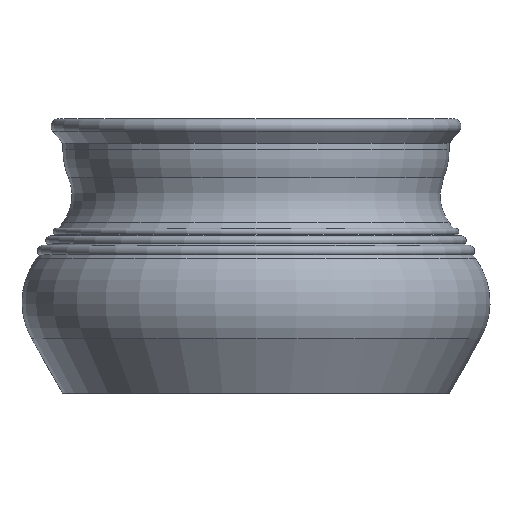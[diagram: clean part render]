
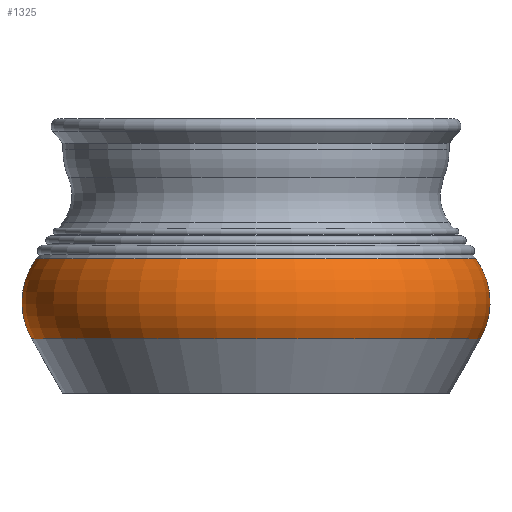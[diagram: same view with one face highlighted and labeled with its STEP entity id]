
A CAD part, front view. The second image highlights one B-rep face of the part: STEP entity #1325.
In plain terms, the highlighted toroidal (fillet/blend) face has major radius 102.136 mm and minor radius 46.864 mm.
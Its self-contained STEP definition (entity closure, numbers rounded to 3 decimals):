
#22=TOROIDAL_SURFACE('',#1505,102.136,46.864);
#166=FACE_OUTER_BOUND('',#284,.T.);
#284=EDGE_LOOP('',(#1208,#1209,#1210,#1211));
#526=CIRCLE('',#1467,142.841);
#549=CIRCLE('',#1506,139.901);
#550=CIRCLE('',#1507,46.864);
#653=VERTEX_POINT('',#2240);
#669=VERTEX_POINT('',#2303);
#818=EDGE_CURVE('',#653,#653,#526,.T.);
#849=EDGE_CURVE('',#669,#669,#549,.T.);
#850=EDGE_CURVE('',#669,#653,#550,.T.);
#1208=ORIENTED_EDGE('',*,*,#849,.F.);
#1209=ORIENTED_EDGE('',*,*,#850,.T.);
#1210=ORIENTED_EDGE('',*,*,#818,.T.);
#1211=ORIENTED_EDGE('',*,*,#850,.F.);
#1325=ADVANCED_FACE('',(#166),#22,.T.);
#1467=AXIS2_PLACEMENT_3D('',#2241,#1837,#1838);
#1505=AXIS2_PLACEMENT_3D('',#2302,#1921,#1922);
#1506=AXIS2_PLACEMENT_3D('',#2304,#1923,#1924);
#1507=AXIS2_PLACEMENT_3D('',#2305,#1925,#1926);
#1837=DIRECTION('center_axis',(0.,0.,1.));
#1838=DIRECTION('ref_axis',(1.,0.,0.));
#1921=DIRECTION('center_axis',(0.,0.,1.));
#1922=DIRECTION('ref_axis',(1.,0.,0.));
#1923=DIRECTION('center_axis',(0.,0.,1.));
#1924=DIRECTION('ref_axis',(1.,0.,0.));
#1925=DIRECTION('center_axis',(0.,-1.,0.));
#1926=DIRECTION('ref_axis',(-1.,0.,0.));
#2240=CARTESIAN_POINT('',(-142.841,0.,34.776));
#2241=CARTESIAN_POINT('Origin',(0.,0.,34.776));
#2302=CARTESIAN_POINT('Origin',(0.,0.,58.));
#2303=CARTESIAN_POINT('',(-139.901,0.,85.75));
#2304=CARTESIAN_POINT('Origin',(0.,0.,85.75));
#2305=CARTESIAN_POINT('Origin',(-102.136,0.,
58.));
